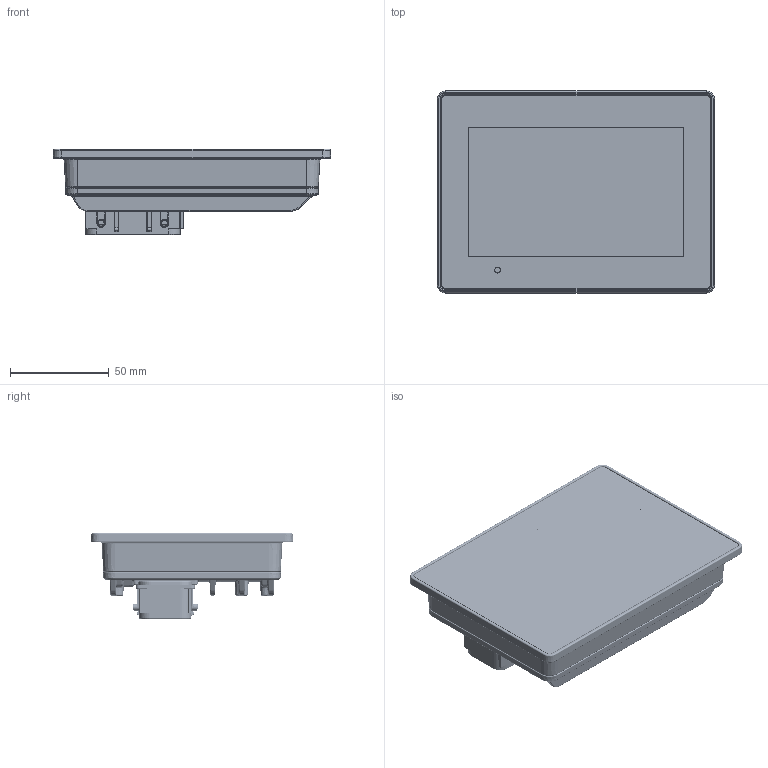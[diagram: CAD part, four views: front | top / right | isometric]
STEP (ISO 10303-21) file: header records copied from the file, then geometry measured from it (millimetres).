
FILE_DESCRIPTION(/* description */ (''),/* implementation_level */ '2;1');
FILE_NAME(/* name */ 'C:\Vault_Workfolder\Designs\A-MD5\Marknad\IQAN MD5-5_assembly.stp',/* time_stamp */ '2024-03-15T13:20:06+01:00',/* author */ ('FW62974B'),/* organization */ (''),/* preprocessor_version */ 'ST-DEVELOPER v18',/* originating_system */ 'Autodesk Inventor 2020',/* authorisation */ '');
FILE_SCHEMA (('AUTOMOTIVE_DESIGN { 1 0 10303 214 3 1 1 }'));
Products named in the file (1): IQAN MD5-5_assembly
Bounding box: 140.4 x 102.4 x 43.37 mm (x, y, z)
Volume: 194845.9 mm3; surface area: 156948.3 mm2
Topology: 10 solids, 13 shells, 7601 faces, 20066 edges, 12682 vertices
Faces by surface type: plane 2792, bspline 2037, cylinder 1960, cone 565, torus 206, sphere 41
Full cylindrical faces by diameter (mm): 1 x2, 2 x5, 2.007 x3, 2.01 x1, 2.459 x4, 2.8 x1, 3.03 x1, 3.242 x6, 3.5 x4, 5 x1, 8 x1, 10 x1
Entity records: 419802 total; most frequent: CARTESIAN_POINT 235284, ORIENTED_EDGE 40104, DIRECTION 31895, EDGE_CURVE 20052, VERTEX_POINT 12682, AXIS2_PLACEMENT_3D 11055, LINE 9785, VECTOR 9785
